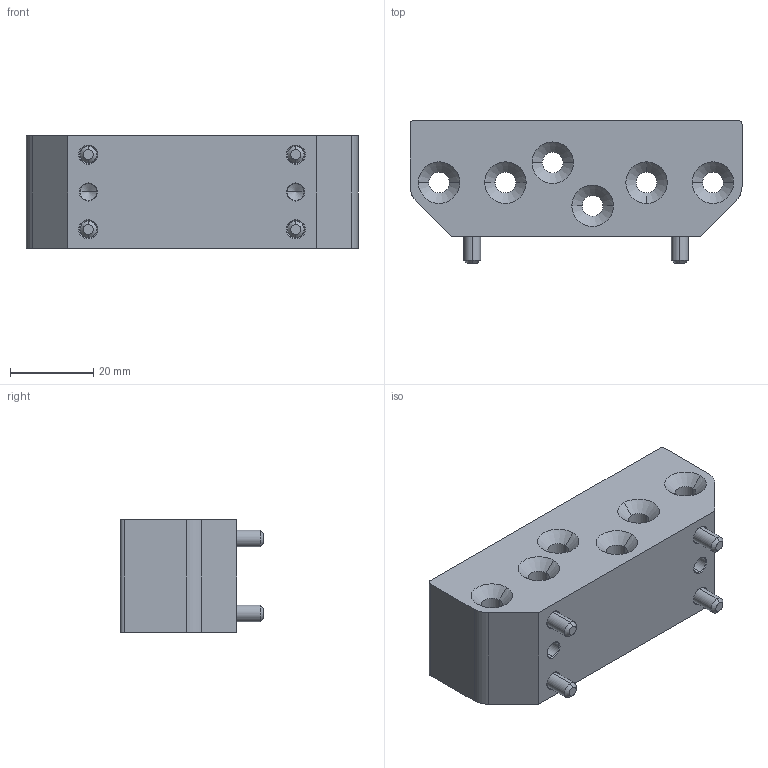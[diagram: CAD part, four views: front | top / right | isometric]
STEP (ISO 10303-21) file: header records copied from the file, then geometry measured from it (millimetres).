
FILE_DESCRIPTION (( 'STEP AP203' ), '1' );
FILE_NAME ('1QCAM-06G18G-E.STEP', '2024-03-14T08:09:27', ( '微软用户' ), ( '微软中国' ), 'SwSTEP 2.0', 'SolidWorks 2018', '' );
FILE_SCHEMA (( 'CONFIG_CONTROL_DESIGN' ));
Length unit declared in the file: millimetre
Products named in the file (1): 1QCAM-06G18G-E
Bounding box: 80 x 34.5 x 27 mm (x, y, z)
Volume: 49586.3 mm3; surface area: 17078.3 mm2
Topology: 1 solids, 1 shells, 236 faces, 534 edges, 316 vertices
Faces by surface type: cone 84, plane 76, cylinder 68, bspline 8
Entity records: 6675 total; most frequent: CARTESIAN_POINT 1223, DIRECTION 1204, ORIENTED_EDGE 1052, EDGE_CURVE 526, AXIS2_PLACEMENT_3D 457, VERTEX_POINT 316, LINE 290, VECTOR 290
